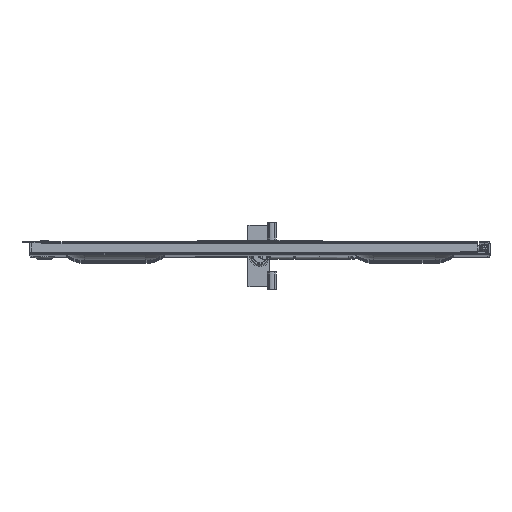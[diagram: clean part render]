
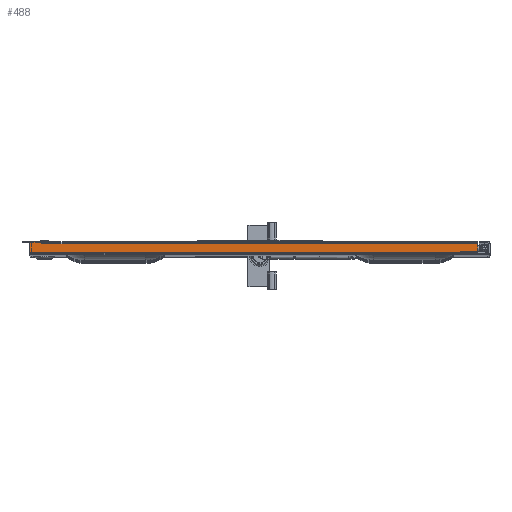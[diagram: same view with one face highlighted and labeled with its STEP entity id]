
A CAD part, top view. The second image highlights one B-rep face of the part: STEP entity #488.
In plain terms, the highlighted planar face has unit normal (0, 0, 1).
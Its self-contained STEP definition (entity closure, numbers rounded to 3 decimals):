
#488 = ADVANCED_FACE( '', ( #1553 ), #1554, .T. );
#1553 = FACE_OUTER_BOUND( '', #3929, .T. );
#1554 = PLANE( '', #3930 );
#3929 = EDGE_LOOP( '', ( #6711, #6712, #6713, #6714, #6715, #6716, #6717, #6718, #6719 ) );
#3930 = AXIS2_PLACEMENT_3D( '', #6720, #6721, #6722 );
#6711 = ORIENTED_EDGE( '', *, *, #14785, .T. );
#6712 = ORIENTED_EDGE( '', *, *, #14770, .T. );
#6713 = ORIENTED_EDGE( '', *, *, #14760, .T. );
#6714 = ORIENTED_EDGE( '', *, *, #14790, .T. );
#6715 = ORIENTED_EDGE( '', *, *, #14791, .T. );
#6716 = ORIENTED_EDGE( '', *, *, #14792, .T. );
#6717 = ORIENTED_EDGE( '', *, *, #14793, .T. );
#6718 = ORIENTED_EDGE( '', *, *, #14781, .F. );
#6719 = ORIENTED_EDGE( '', *, *, #14778, .T. );
#6720 = CARTESIAN_POINT( '', ( -239.205, 1.181, 885.825 ) );
#6721 = DIRECTION( '', ( 0., 0., 1. ) );
#6722 = DIRECTION( '', ( 0., -1., 0. ) );
#14760 = EDGE_CURVE( '', #17560, #17558, #17561, .T. );
#14770 = EDGE_CURVE( '', #17572, #17560, #17575, .T. );
#14778 = EDGE_CURVE( '', #17590, #17587, #17591, .T. );
#14781 = EDGE_CURVE( '', #17590, #17595, #17596, .T. );
#14785 = EDGE_CURVE( '', #17587, #17572, #17601, .T. );
#14790 = EDGE_CURVE( '', #17558, #17609, #17610, .T. );
#14791 = EDGE_CURVE( '', #17609, #17611, #17612, .T. );
#14792 = EDGE_CURVE( '', #17611, #17613, #17614, .T. );
#14793 = EDGE_CURVE( '', #17613, #17595, #17615, .T. );
#17558 = VERTEX_POINT( '', #22168 );
#17560 = VERTEX_POINT( '', #22170 );
#17561 = LINE( '', #22171, #22172 );
#17572 = VERTEX_POINT( '', #22203 );
#17575 = LINE( '', #22224, #22225 );
#17587 = VERTEX_POINT( '', #22243 );
#17590 = VERTEX_POINT( '', #22247 );
#17591 = LINE( '', #22248, #22249 );
#17595 = VERTEX_POINT( '', #22255 );
#17596 = LINE( '', #22256, #22257 );
#17601 = CIRCLE( '', #22264, 1.08 );
#17609 = VERTEX_POINT( '', #22276 );
#17610 = LINE( '', #22277, #22278 );
#17611 = VERTEX_POINT( '', #22279 );
#17612 = LINE( '', #22280, #22281 );
#17613 = VERTEX_POINT( '', #22282 );
#17614 = LINE( '', #22283, #22284 );
#17615 = LINE( '', #22285, #22286 );
#22168 = CARTESIAN_POINT( '', ( 226.505, 11.309, 885.825 ) );
#22170 = CARTESIAN_POINT( '', ( 226.505, 2.184, 885.825 ) );
#22171 = CARTESIAN_POINT( '', ( 226.505, 1.181, 885.825 ) );
#22172 = VECTOR( '', #27750, 1000. );
#22203 = CARTESIAN_POINT( '', ( -237.626, 2.184, 885.825 ) );
#22224 = CARTESIAN_POINT( '', ( -239.205, 2.184, 885.825 ) );
#22225 = VECTOR( '', #27763, 1000. );
#22243 = CARTESIAN_POINT( '', ( -238.421, 2.184, 885.825 ) );
#22247 = CARTESIAN_POINT( '', ( -239.205, 2.184, 885.825 ) );
#22248 = CARTESIAN_POINT( '', ( -239.205, 2.184, 885.825 ) );
#22249 = VECTOR( '', #27777, 1000. );
#22255 = CARTESIAN_POINT( '', ( -239.205, 13.494, 885.825 ) );
#22256 = CARTESIAN_POINT( '', ( -239.205, 1.181, 885.825 ) );
#22257 = VECTOR( '', #27780, 1000. );
#22264 = AXIS2_PLACEMENT_3D( '', #27786, #27787, #27788 );
#22276 = CARTESIAN_POINT( '', ( -226.505, 11.309, 885.825 ) );
#22277 = CARTESIAN_POINT( '', ( -226.505, 11.309, 885.825 ) );
#22278 = VECTOR( '', #27793, 1000. );
#22279 = CARTESIAN_POINT( '', ( -227.267, 11.309, 885.825 ) );
#22280 = CARTESIAN_POINT( '', ( -226.505, 11.309, 885.825 ) );
#22281 = VECTOR( '', #27794, 1000. );
#22282 = CARTESIAN_POINT( '', ( -227.267, 13.494, 885.825 ) );
#22283 = CARTESIAN_POINT( '', ( -227.267, 11.309, 885.825 ) );
#22284 = VECTOR( '', #27795, 1000. );
#22285 = CARTESIAN_POINT( '', ( 226.505, 13.494, 885.825 ) );
#22286 = VECTOR( '', #27796, 1000. );
#27750 = DIRECTION( '', ( 0., 1., 0. ) );
#27763 = DIRECTION( '', ( 1., 0., 0. ) );
#27777 = DIRECTION( '', ( 1., 0., 0. ) );
#27780 = DIRECTION( '', ( 0., 1., 0. ) );
#27786 = CARTESIAN_POINT( '', ( -238.024, 1.181, 885.825 ) );
#27787 = DIRECTION( '', ( 0., 0., -1. ) );
#27788 = DIRECTION( '', ( -1., 0., 0. ) );
#27793 = DIRECTION( '', ( -1., 0., 0. ) );
#27794 = DIRECTION( '', ( -1., 0., 0. ) );
#27795 = DIRECTION( '', ( 0., 1., 0. ) );
#27796 = DIRECTION( '', ( -1., 0., 0. ) );
